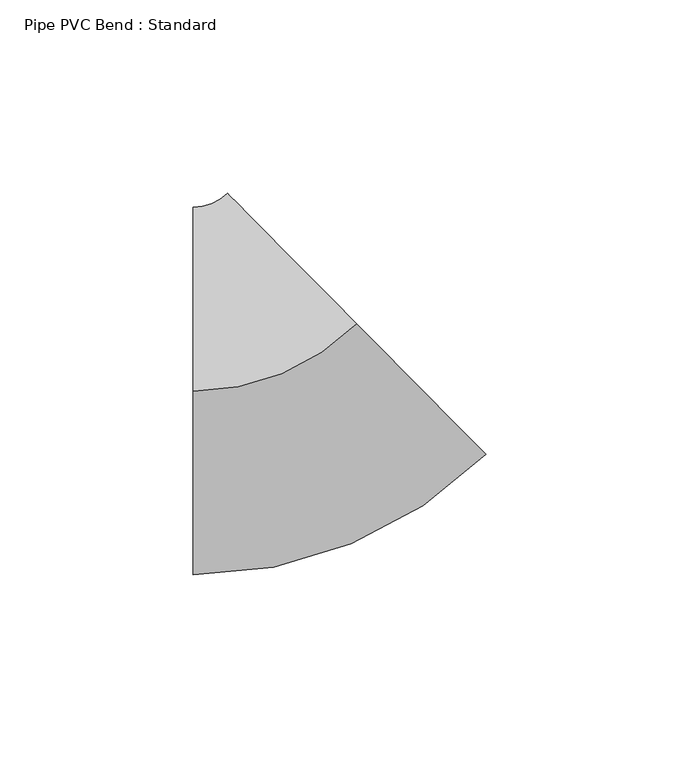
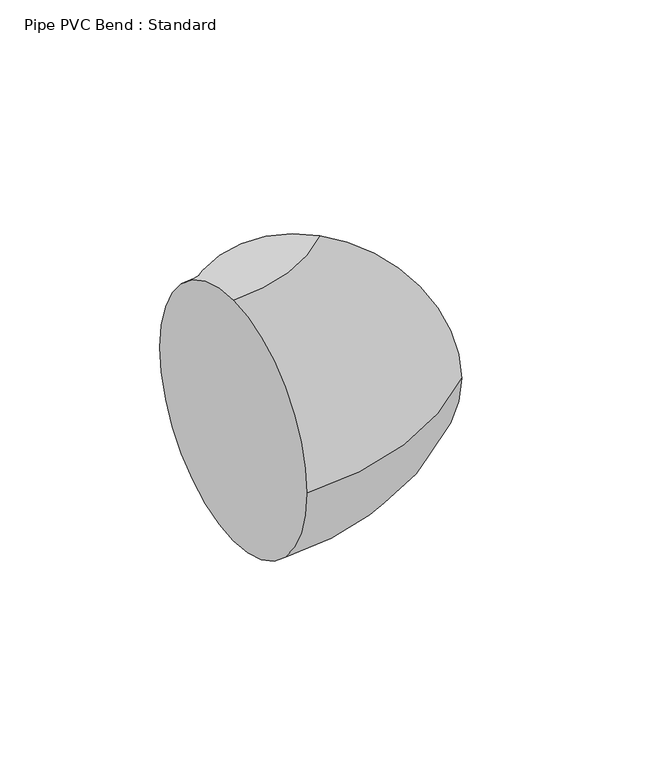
"""IFC4 building model written with IfcOpenShell, lengths in millimetres: pipe fitting geometry, Pipe PVC Bend : Standard."""

from ifc_helpers import new_model, si_unit, point, frame, origin, place, context, project, spatial, circle_curve, ellipse_curve, trimmed, source, transform, mapped, element, save
from ifc_brep_helpers import plane_surface, revolved_surface, advanced_brep


def pipe_pvc_bend_standard_4ddb6c24(model_context):
    return source(origin(), model_context, "Body", "AdvancedBrep", [
        advanced_brep(
        [(-24.8035879, 0.0, 47.625), (-24.8035879, 47.625, 0.0), (-24.8035879, 0.0, -47.625), (-24.8035879, -47.625, 0.0), (17.6298914, 17.4472032, 47.625), (51.1300067, -16.403689, 0.0), (17.6298914, 17.4472032, -47.625), (-15.8702238, 51.2980954, 0.0)],
        [
            (0, 1, circle_curve(frame((-24.8035879, 0.0, 0.0), z_axis=(-1.0, 0.0, 0.0), x_axis=(0.0, 1.0, 0.0)), 47.625)),
            (1, 2, circle_curve(frame((-24.8035879, 0.0, 0.0), z_axis=(-1.0, 0.0, 0.0), x_axis=(0.0, 1.0, 0.0)), 47.625)),
            (2, 3, circle_curve(frame((-24.8035879, 0.0, 0.0), z_axis=(-1.0, 0.0, 0.0), x_axis=(0.0, 1.0, 0.0)), 47.625)),
            (3, 0, circle_curve(frame((-24.8035879, 0.0, 0.0), z_axis=(-1.0, 0.0, 0.0), x_axis=(0.0, 1.0, 0.0)), 47.625)),
            (4, 5, circle_curve(frame((17.6298914, 17.4472032, 0.0), z_axis=(0.7107798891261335, 0.7034144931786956, 0.0), x_axis=(-0.7034144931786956, 0.7107798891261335, 0.0)), 47.625)),
            (5, 6, circle_curve(frame((17.6298914, 17.4472032, 0.0), z_axis=(0.7107798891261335, 0.7034144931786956, 0.0), x_axis=(-0.7034144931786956, 0.7107798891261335, 0.0)), 47.625)),
            (6, 7, circle_curve(frame((17.6298914, 17.4472032, 0.0), z_axis=(0.7107798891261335, 0.7034144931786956, 0.0), x_axis=(-0.7034144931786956, 0.7107798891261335, 0.0)), 47.625)),
            (7, 4, circle_curve(frame((17.6298914, 17.4472032, 0.0), z_axis=(0.7107798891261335, 0.7034144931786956, 0.0), x_axis=(-0.7034144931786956, 0.7107798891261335, 0.0)), 47.625)),
            (7, 1, circle_curve(frame((-24.8035879, 60.325, 0.0), z_axis=(0.0, 0.0, -1.0), x_axis=(0.0, -1.0, 0.0)), 12.7)),
            (0, 4, circle_curve(frame((-24.8035879, 60.325, 47.625), z_axis=(0.0, 0.0, 1.0), x_axis=(0.0, -1.0, 0.0)), 60.325)),
            (6, 2, circle_curve(frame((-24.8035879, 60.325, -47.625), z_axis=(0.0, 0.0, -1.0), x_axis=(0.0, -1.0, 0.0)), 60.325)),
            (5, 3, circle_curve(frame((-24.8035879, 60.325, 0.0), z_axis=(0.0, 0.0, -1.0), x_axis=(0.0, -1.0, 0.0)), 107.95)),
        ],
        [
            plane_surface(frame((-24.8035879, 0.0, 0.0), z_axis=(-1.0, 0.0, 0.0), x_axis=(0.0, 0.0, 1.0))),
            plane_surface(frame((17.6298914, 17.4472032, 0.0), z_axis=(0.7107798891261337, 0.7034144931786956, 0.0), x_axis=(0.0, 0.0, 1.0))),
            revolved_surface(trimmed(ellipse_curve(frame((-24.8035879, 0.0, 0.0), z_axis=(-1.0, 0.0, 0.0), x_axis=(0.0, 1.0, 0.0)), 47.625, 47.625), [point((-24.8035879, 0.0, 47.625))], [point((-24.8035879, 47.625, 0.0))], True, "CARTESIAN"), (-24.8035879, 60.325, 0.0), (0.0, 0.0, 1.0)),
            revolved_surface(trimmed(ellipse_curve(frame((-24.8035879, 0.0, 0.0), z_axis=(-1.0, 0.0, 0.0), x_axis=(0.0, 1.0, 0.0)), 47.625, 47.625), [point((-24.8035879, 47.625, 0.0))], [point((-24.8035879, 0.0, -47.625))], True, "CARTESIAN"), (-24.8035879, 60.325, 0.0), (0.0, 0.0, 1.0)),
            revolved_surface(trimmed(ellipse_curve(frame((-24.8035879, 0.0, 0.0), z_axis=(-1.0, 0.0, 0.0), x_axis=(0.0, 1.0, 0.0)), 47.625, 47.625), [point((-24.8035879, 0.0, -47.625))], [point((-24.8035879, -47.625, 0.0))], True, "CARTESIAN"), (-24.8035879, 60.325, 0.0), (0.0, 0.0, 1.0)),
            revolved_surface(trimmed(ellipse_curve(frame((-24.8035879, 0.0, 0.0), z_axis=(-1.0, 0.0, 0.0), x_axis=(0.0, 1.0, 0.0)), 47.625, 47.625), [point((-24.8035879, -47.625, 0.0))], [point((-24.8035879, 0.0, 47.625))], True, "CARTESIAN"), (-24.8035879, 60.325, 0.0), (0.0, 0.0, 1.0)),
        ],
        [
            (0, [[1, 2, 3, 4]]),
            (1, [[5, 6, 7, 8]]),
            (2, [[9, -1, 10, -8]]),
            (3, [[11, -2, -9, -7]]),
            (4, [[12, -3, -11, -6]]),
            (5, [[-10, -4, -12, -5]]),
        ],
    ),
        advanced_brep(
        [(-24.8035879, 0.0, 47.625), (-24.8035879, 47.625, 0.0), (-24.8035879, 0.0, -47.625), (-24.8035879, -47.625, 0.0), (17.6298914, 17.4472032, 47.625), (51.1300067, -16.403689, 0.0), (17.6298914, 17.4472032, -47.625), (-15.8702238, 51.2980954, 0.0)],
        [
            (0, 1, circle_curve(frame((-24.8035879, 0.0, 0.0), z_axis=(-1.0, 0.0, 0.0), x_axis=(0.0, 1.0, 0.0)), 47.625)),
            (1, 2, circle_curve(frame((-24.8035879, 0.0, 0.0), z_axis=(-1.0, 0.0, 0.0), x_axis=(0.0, 1.0, 0.0)), 47.625)),
            (2, 3, circle_curve(frame((-24.8035879, 0.0, 0.0), z_axis=(-1.0, 0.0, 0.0), x_axis=(0.0, 1.0, 0.0)), 47.625)),
            (3, 0, circle_curve(frame((-24.8035879, 0.0, 0.0), z_axis=(-1.0, 0.0, 0.0), x_axis=(0.0, 1.0, 0.0)), 47.625)),
            (4, 5, circle_curve(frame((17.6298914, 17.4472032, 0.0), z_axis=(0.7107798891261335, 0.7034144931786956, 0.0), x_axis=(-0.7034144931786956, 0.7107798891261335, 0.0)), 47.625)),
            (5, 6, circle_curve(frame((17.6298914, 17.4472032, 0.0), z_axis=(0.7107798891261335, 0.7034144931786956, 0.0), x_axis=(-0.7034144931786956, 0.7107798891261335, 0.0)), 47.625)),
            (6, 7, circle_curve(frame((17.6298914, 17.4472032, 0.0), z_axis=(0.7107798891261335, 0.7034144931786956, 0.0), x_axis=(-0.7034144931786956, 0.7107798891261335, 0.0)), 47.625)),
            (7, 4, circle_curve(frame((17.6298914, 17.4472032, 0.0), z_axis=(0.7107798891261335, 0.7034144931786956, 0.0), x_axis=(-0.7034144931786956, 0.7107798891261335, 0.0)), 47.625)),
            (7, 1, circle_curve(frame((-24.8035879, 60.325, 0.0), z_axis=(0.0, 0.0, -1.0), x_axis=(0.0, -1.0, 0.0)), 12.7)),
            (0, 4, circle_curve(frame((-24.8035879, 60.325, 47.625), z_axis=(0.0, 0.0, 1.0), x_axis=(0.0, -1.0, 0.0)), 60.325)),
            (6, 2, circle_curve(frame((-24.8035879, 60.325, -47.625), z_axis=(0.0, 0.0, -1.0), x_axis=(0.0, -1.0, 0.0)), 60.325)),
            (5, 3, circle_curve(frame((-24.8035879, 60.325, 0.0), z_axis=(0.0, 0.0, -1.0), x_axis=(0.0, -1.0, 0.0)), 107.95)),
        ],
        [
            plane_surface(frame((-24.8035879, 0.0, 0.0), z_axis=(-1.0, 0.0, 0.0), x_axis=(0.0, 0.0, 1.0))),
            plane_surface(frame((17.6298914, 17.4472032, 0.0), z_axis=(0.7107798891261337, 0.7034144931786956, 0.0), x_axis=(0.0, 0.0, 1.0))),
            revolved_surface(trimmed(ellipse_curve(frame((-24.8035879, 0.0, 0.0), z_axis=(-1.0, 0.0, 0.0), x_axis=(0.0, 1.0, 0.0)), 47.625, 47.625), [point((-24.8035879, 0.0, 47.625))], [point((-24.8035879, 47.625, 0.0))], True, "CARTESIAN"), (-24.8035879, 60.325, 0.0), (0.0, 0.0, 1.0)),
            revolved_surface(trimmed(ellipse_curve(frame((-24.8035879, 0.0, 0.0), z_axis=(-1.0, 0.0, 0.0), x_axis=(0.0, 1.0, 0.0)), 47.625, 47.625), [point((-24.8035879, 47.625, 0.0))], [point((-24.8035879, 0.0, -47.625))], True, "CARTESIAN"), (-24.8035879, 60.325, 0.0), (0.0, 0.0, 1.0)),
            revolved_surface(trimmed(ellipse_curve(frame((-24.8035879, 0.0, 0.0), z_axis=(-1.0, 0.0, 0.0), x_axis=(0.0, 1.0, 0.0)), 47.625, 47.625), [point((-24.8035879, 0.0, -47.625))], [point((-24.8035879, -47.625, 0.0))], True, "CARTESIAN"), (-24.8035879, 60.325, 0.0), (0.0, 0.0, 1.0)),
            revolved_surface(trimmed(ellipse_curve(frame((-24.8035879, 0.0, 0.0), z_axis=(-1.0, 0.0, 0.0), x_axis=(0.0, 1.0, 0.0)), 47.625, 47.625), [point((-24.8035879, -47.625, 0.0))], [point((-24.8035879, 0.0, 47.625))], True, "CARTESIAN"), (-24.8035879, 60.325, 0.0), (0.0, 0.0, 1.0)),
        ],
        [
            (0, [[1, 2, 3, 4]]),
            (1, [[5, 6, 7, 8]]),
            (2, [[9, -1, 10, -8]]),
            (3, [[11, -2, -9, -7]]),
            (4, [[12, -3, -11, -6]]),
            (5, [[-10, -4, -12, -5]]),
        ],
    ),
    ])


if __name__ == "__main__":
    model = new_model("IFC4")
    model_context = context("Model", 3, world=origin())
    ifc_project = project(units=[si_unit("LENGTHUNIT", "METRE", prefix="MILLI")], contexts=[model_context])
    site = spatial("IfcSite", under=ifc_project)
    building = spatial("IfcBuilding", under=site)
    placement = place(None, origin())
    pipe_pvc_bend_standard_shape = pipe_pvc_bend_standard_4ddb6c24(model_context)
    element("IfcPipeFitting", 1, ObjectType="Pipe PVC Bend : Standard", at=placement, inside=building, context=model_context, shape_type="MappedRepresentation", body=[
        mapped(pipe_pvc_bend_standard_shape, transform((0.0, 0.0, 0.0), x_axis=(1.0, 0.0, 0.0), y_axis=(0.0, 1.0, 0.0), z_axis=(0.0, 0.0, 1.0))),
    ])
    save(model, "model.ifc")
